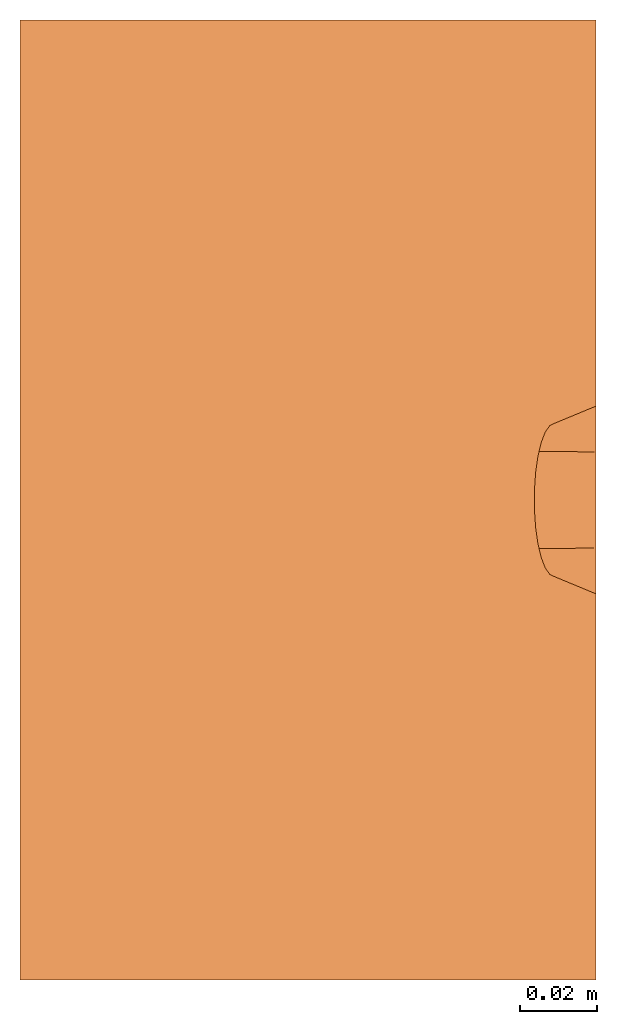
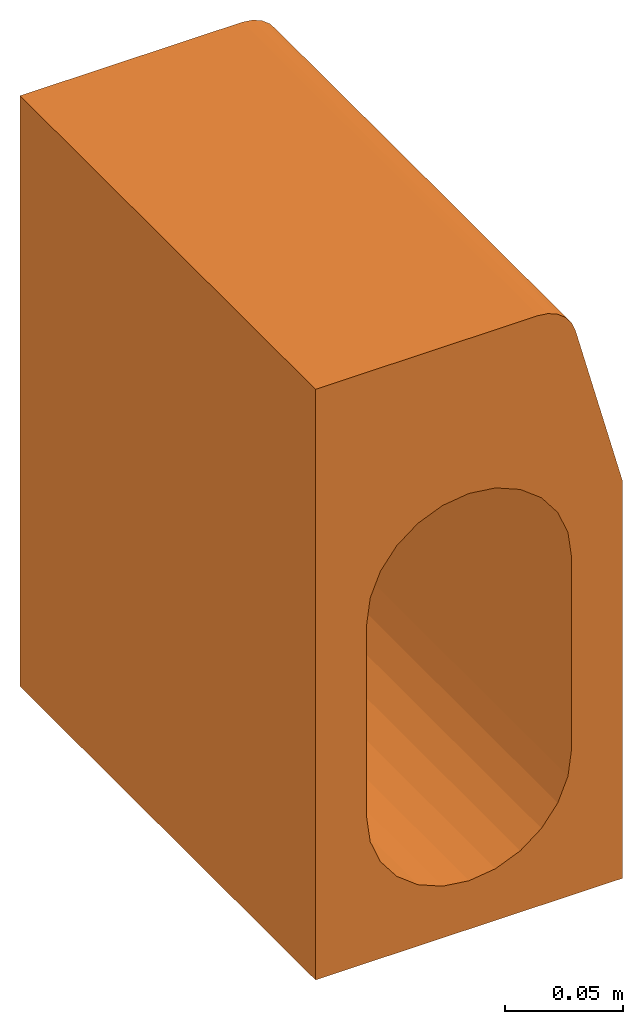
# One storey: 1 proxy.
"""IFC2X3 building model written with IfcOpenShell, lengths in millimetres."""

from ifc_helpers import new_model, entity, si_unit, converted_unit, direction, frame, origin, place, context, subcontext, project, spatial, faceted_brep, source, transform, mapped, material, element, save


model = new_model("IFC2X3")

# Units and contexts
model_context = context("Model", 3, precision=1e-06, world=origin(), true_north=direction((2.0, 6.12303176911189e-17, 1.0)))
context_of_model = context(None, 3, precision=1e-06, world=origin(), true_north=direction((2.0, 6.12303176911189e-17, 1.0)))
body_context = subcontext(model_context, "Body", "Model", "MODEL_VIEW")
ifc_project = project(units=[si_unit("LENGTHUNIT", "METRE", prefix="MILLI"), si_unit("AREAUNIT", "SQUARE_METRE", prefix="MILLI"), si_unit("VOLUMEUNIT", "CUBIC_METRE", prefix="MILLI"), converted_unit("PLANEANGLEUNIT", "DEGREE", entity("IfcRatioMeasure", 0.0174532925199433), si_unit("PLANEANGLEUNIT", "RADIAN"), dimensions=[0, 0, 0, 0, 0, 0, 0]), si_unit("TIMEUNIT", "SECOND")], contexts=[model_context, context_of_model])

# Site, building, storey
site_placement = place(None, origin())
site = spatial("IfcSite", under=ifc_project, at=site_placement, Name="Default", CompositionType="ELEMENT")
building_placement = place(site_placement, origin())
building = spatial("IfcBuilding", under=site, at=building_placement, CompositionType="ELEMENT")
storey_placement = place(building_placement, frame((0.0, 0.0, -300.0)))
storey = spatial("IfcBuildingStorey", under=building, at=storey_placement, Name="T.O. Fnd. Wall", CompositionType="ELEMENT", Elevation=-300.0)

# Proxy
ifc_material = material(Name="ACO Polymer Concrete.")
shared_shape = source(origin(), body_context, "Body", "Brep", [
    faceted_brep([(-75.0, 250.0, -180.0), (-35.3553390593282, 250.0, -140.35533905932), (-25.0, 250.0, -148.301270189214), (-43.3012701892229, 250.0, -130.0), (-12.9409522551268, 250.0, -153.296291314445), (0.0, 250.0, -155.0), (-50.0, 250.0, -5.0), (-50.0, 250.0, -105.0), (-75.0, 250.0, 125.0), (-48.2962913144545, 250.0, -117.940952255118), (-48.2962913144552, 250.0, 7.9409522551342), (12.9409522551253, 250.0, -153.296291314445), (75.0, 250.0, -180.0), (25.0, 250.0, -148.301270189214), (35.3553390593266, 250.0, -140.355339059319), (43.3012701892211, 250.0, -130.0), (50.0, 250.0, -105.0), (75.0, 250.0, 25.0), (48.2962913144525, 250.0, -117.940952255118), (50.0, 250.0, -5.0), (-35.3553390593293, 250.0, 30.3553390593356), (-43.3012701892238, 250.0, 20.0), (-25.0, 250.0, 38.3012701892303), (33.625867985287, 250.0, 125.0), (-12.940952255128, 250.0, 43.2962913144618), (12.9409522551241, 250.0, 43.296291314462), (0.0, 250.0, 45.0), (51.9784586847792, 250.0, 110.917561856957), (25.0, 250.0, 38.3012701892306), (43.3012701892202, 250.0, 20.0), (35.3553390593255, 250.0, 30.3553390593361), (48.2962913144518, 250.0, 7.94095225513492), (43.125867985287, 250.0, 122.454482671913), (47.0608968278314, 250.0, 119.435028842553), (50.0803506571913, 250.0, 115.500000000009), (38.5434298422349, 250.0, 124.352590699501), (-12.940952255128, 0.0, 43.2962913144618), (0.0, 0.0, 45.0), (33.625867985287, 0.0, 125.0), (-75.0, 0.0, 125.0), (12.9409522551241, 0.0, 43.296291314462), (51.9784586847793, 0.0, 110.917561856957), (-43.3012701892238, 0.0, 20.0), (-35.3553390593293, 0.0, 30.3553390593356), (-25.0, 0.0, 38.3012701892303), (-48.2962913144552, 0.0, 7.9409522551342), (25.0, 0.0, 38.3012701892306), (43.125867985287, 0.0, 122.454482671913), (38.5434298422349, 0.0, 124.352590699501), (47.0608968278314, 0.0, 119.435028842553), (50.0803506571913, 0.0, 115.500000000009), (35.3553390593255, 0.0, 30.3553390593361), (43.3012701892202, 0.0, 20.0), (75.0, 0.0, 25.0), (48.2962913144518, 0.0, 7.94095225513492), (50.0, 0.0, -5.0), (-50.0, 0.0, -105.0), (-50.0, 0.0, -5.0), (-75.0, 0.0, -180.0), (-48.2962913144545, 0.0, -117.940952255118), (-43.3012701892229, 0.0, -130.0), (-35.3553390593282, 0.0, -140.35533905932), (-25.0, 0.0, -148.301270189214), (-12.9409522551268, 0.0, -153.296291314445), (0.0, 0.0, -155.0), (75.0, 0.0, -180.0), (48.2962913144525, 0.0, -117.940952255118), (43.3012701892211, 0.0, -130.0), (50.0, 0.0, -105.0), (12.9409522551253, 0.0, -153.296291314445), (35.3553390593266, 0.0, -140.355339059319), (25.0, 0.0, -148.301270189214), (75.0, 107.326088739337, 2.32372360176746), (75.0, 112.503758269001, -1.64924196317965), (75.0, 118.533282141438, -4.14675252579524), (75.0, 125.003758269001, -4.99860686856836), (75.0, 100.003758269, 20.0013931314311), (75.0, 100.559159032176, 25.0), (75.0, 100.855612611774, 13.530917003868), (75.0, 103.35312317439, 7.50139313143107), (75.0, 131.474234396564, -4.1467525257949), (75.0, 142.681427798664, 2.32372360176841), (75.0, 137.503758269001, -1.649241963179), (75.0, 149.151903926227, 13.5309170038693), (75.0, 146.654393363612, 7.50139313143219), (75.0, 149.448357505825, 25.0), (75.0, 150.003758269, 20.0013931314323), (33.625867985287, 152.199882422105, 125.0), (10.3952698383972, 102.659986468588, 43.9074469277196), (20.3362443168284, 102.301107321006, 40.6775345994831), (0.0, 102.781381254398, 45.0), (50.0, 117.1875, -5.0), (50.0, 109.375, -5.0), (49.9983675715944, 120.53500866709, -4.59597008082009), (50.0, 125.0, -5.0), (49.8744572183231, 112.179931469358, -1.45902313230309), (50.0, 93.75, -5.0), (50.0, 62.5, -5.0), (49.9364123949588, 116.357470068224, -3.02749660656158), (10.3952698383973, 147.347530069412, 43.9074469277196), (0.0, 147.226135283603, 45.0), (20.3362443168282, 147.706409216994, 40.6775345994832), (29.3884817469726, 101.720427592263, 35.4514170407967), (37.1563801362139, 100.943324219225, 28.4574866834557), (43.3004658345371, 100.003758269, 20.0013931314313), (47.0227658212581, 101.320186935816, 11.9958669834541), (49.1106035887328, 105.47825301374, 4.3887493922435), (50.0, 156.25, -5.0), (50.0, 140.625, -5.0), (49.8747875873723, 137.819789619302, -1.46367943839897), (50.0, 187.5, -5.0), (49.492530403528, 108.829092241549, 1.46486312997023), (50.0, 132.8125, -5.0), (49.998386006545, 129.459896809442, -4.59825786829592), (37.1563801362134, 149.064192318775, 28.4574866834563), (29.3884817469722, 148.287088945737, 35.451417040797), (43.3004658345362, 150.003758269, 20.0013931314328), (47.0236538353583, 148.686498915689, 11.9934098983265), (49.9365867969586, 133.639843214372, -3.03096865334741), (49.4939729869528, 141.169176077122, 1.45584823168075), (49.1131583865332, 144.518562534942, 4.37537590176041), (48.0684061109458, 146.602530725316, 8.18439290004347), (49.9983767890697, 124.997452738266, -4.59711397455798), (64.2816590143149, 105.003758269, 65.0013931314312), (62.9991702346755, 105.584921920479, 69.7877064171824), (61.7912150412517, 107.294637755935, 74.2958565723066), (60.7279953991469, 110.033543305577, 78.2638462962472), (59.8713017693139, 113.642463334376, 81.4610704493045), (59.270922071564, 117.911660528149, 83.7017179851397), (58.9617481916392, 122.593024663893, 84.8555706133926), (51.9784586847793, 97.8001254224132, 110.917561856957), (58.9617481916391, 127.414491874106, 84.8555706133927), (61.7912150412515, 142.712878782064, 74.2958565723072), (62.9991702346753, 144.422594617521, 69.7877064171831), (64.2816590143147, 145.003758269, 65.0013931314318), (59.270922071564, 132.09585600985, 83.70171798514), (59.8713017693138, 136.365053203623, 81.4610704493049), (60.7279953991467, 139.973973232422, 78.2638462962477), (48.6995813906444, 115.347345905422, 117.566467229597), (50.6499186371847, 95.2808926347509, 114.436924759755), (45.1923351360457, 125.000000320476, 121.073713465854), (40.8968531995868, 134.65265187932, 123.553711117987), (37.3691629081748, 154.719106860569, 124.627607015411), (0.0, 144.322274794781, 70.177774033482), (0.0, 142.324266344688, 75.0013931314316), (0.0, 145.003758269, 65.0013931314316), (0.0, 139.14589389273, 79.1435287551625), (0.0, 105.685241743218, 70.1777740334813), (0.0, 135.003758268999, 82.3219012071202), (0.0, 130.18013917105, 84.3199096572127), (0.0, 125.003758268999, 85.0013931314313), (0.0, 105.003758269, 65.001393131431), (0.0, 110.861622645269, 79.143528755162), (0.0, 107.683250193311, 75.0013931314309), (0.0, 119.827377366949, 84.3199096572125), (0.0, 115.003758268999, 82.3219012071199)], [[[0, 1, 2]], [[1, 0, 3]], [[2, 4, 0]], [[0, 4, 5]], [[6, 7, 0, 8]], [[9, 3, 0]], [[10, 6, 8]], [[7, 9, 0]], [[5, 11, 12, 0]], [[12, 13, 14]], [[13, 12, 11]], [[14, 15, 12]], [[16, 17, 12, 18]], [[15, 18, 12]], [[17, 16, 19]], [[20, 21, 8]], [[20, 8, 22]], [[8, 23, 24, 22]], [[25, 26, 23]], [[23, 26, 24]], [[27, 28, 25, 23]], [[21, 10, 8]], [[17, 29, 30, 27]], [[31, 17, 19]], [[17, 31, 29]], [[23, 32, 33, 34]], [[34, 27, 23]], [[27, 30, 28]], [[23, 35, 32]], [[36, 37, 38, 39]], [[40, 41, 38, 37]], [[42, 43, 39]], [[44, 36, 39]], [[43, 44, 39]], [[39, 45, 42]], [[41, 40, 46]], [[47, 48, 38, 49]], [[50, 49, 38, 41]], [[51, 52, 53, 41]], [[53, 52, 54]], [[53, 54, 55]], [[46, 51, 41]], [[56, 57, 58]], [[56, 58, 59]], [[57, 45, 39, 58]], [[60, 58, 61]], [[58, 60, 59]], [[62, 61, 58]], [[63, 62, 58]], [[64, 63, 58, 65]], [[66, 67, 65]], [[65, 53, 68, 66]], [[69, 64, 65]], [[70, 71, 65]], [[65, 71, 69]], [[70, 65, 67]], [[68, 53, 55]], [[58, 39, 8, 0]], [[65, 58, 0, 12]], [[72, 53, 65, 73]], [[74, 73, 65]], [[75, 74, 65, 12]], [[53, 76, 77]], [[76, 53, 78]], [[79, 78, 53]], [[53, 72, 79]], [[80, 75, 12]], [[81, 82, 12, 17]], [[12, 82, 80]], [[83, 84, 17]], [[85, 86, 17]], [[17, 86, 83]], [[84, 81, 17]], [[39, 38, 87, 23]], [[23, 8, 39]], [[43, 42, 21, 20]], [[45, 57, 6, 10]], [[42, 45, 10, 21]], [[44, 43, 20, 22]], [[40, 37, 88]], [[46, 40, 89]], [[90, 37, 36, 24]], [[89, 40, 88]], [[91, 92, 93, 94]], [[36, 44, 22, 24]], [[90, 88, 37]], [[95, 92, 96, 97]], [[92, 95, 98, 93]], [[26, 99, 100]], [[100, 90, 24, 26]], [[26, 25, 99]], [[101, 99, 25]], [[28, 101, 25]], [[102, 46, 89]], [[103, 52, 51]], [[102, 103, 51]], [[104, 52, 103]], [[104, 105, 52]], [[46, 102, 51]], [[54, 105, 106]], [[52, 105, 54]], [[55, 54, 106]], [[107, 108, 109, 110]], [[55, 106, 111, 95]], [[97, 55, 95]], [[112, 94, 113, 108]], [[114, 115, 30]], [[116, 114, 29]], [[28, 30, 115]], [[29, 114, 30]], [[29, 117, 116]], [[115, 101, 28]], [[108, 113, 118, 109]], [[19, 109, 119, 120]], [[31, 120, 121, 117]], [[19, 120, 31]], [[29, 31, 117]], [[109, 19, 110]], [[94, 93, 122, 113]], [[16, 68, 55, 97]], [[70, 67, 15, 14]], [[69, 71, 13, 11]], [[71, 70, 14, 13]], [[64, 69, 11, 5]], [[16, 18, 66, 68]], [[66, 18, 15, 67]], [[62, 63, 4, 2]], [[61, 62, 2, 1]], [[59, 60, 3, 9]], [[60, 61, 1, 3]], [[56, 59, 9, 7]], [[5, 4, 63, 64]], [[6, 57, 56, 7]], [[53, 77, 123, 41]], [[41, 123, 124]], [[41, 124, 125]], [[41, 126, 127]], [[126, 41, 125]], [[41, 128, 129, 130]], [[127, 128, 41]], [[27, 130, 129, 131]], [[27, 132, 133]], [[134, 85, 17, 27]], [[133, 134, 27]], [[131, 135, 27]], [[136, 137, 27]], [[27, 137, 132]], [[136, 27, 135]], [[34, 138, 139]], [[130, 27, 139, 41]], [[41, 139, 50]], [[140, 49, 138]], [[32, 35, 141]], [[138, 49, 50]], [[27, 34, 139]], [[33, 32, 140]], [[140, 138, 33]], [[140, 32, 141]], [[23, 142, 35]], [[33, 138, 34]], [[142, 23, 87, 38]], [[142, 141, 35]], [[48, 141, 142]], [[47, 141, 48]], [[47, 140, 141]], [[139, 138, 50]], [[47, 49, 140]], [[142, 38, 48]], [[143, 144, 145]], [[146, 147, 145, 144]], [[148, 149, 150, 146]], [[90, 100, 145, 151]], [[147, 146, 152, 153]], [[145, 147, 151]], [[152, 150, 154, 155]], [[150, 152, 146]], [[147, 125, 124]], [[151, 124, 123]], [[155, 128, 127]], [[152, 127, 126]], [[153, 126, 125]], [[147, 153, 125]], [[124, 151, 147]], [[152, 155, 127]], [[126, 153, 152]], [[154, 128, 155]], [[154, 150, 129]], [[128, 154, 129]], [[148, 136, 135]], [[149, 135, 131]], [[145, 134, 133]], [[144, 132, 137]], [[132, 143, 133]], [[146, 137, 136]], [[150, 149, 131]], [[149, 148, 135]], [[148, 146, 136]], [[146, 144, 137]], [[132, 144, 143]], [[143, 145, 133]], [[129, 150, 131]], [[99, 145, 100]], [[145, 99, 101]], [[101, 115, 134, 145]], [[114, 85, 134, 115]], [[116, 86, 85, 114]], [[83, 86, 116]], [[81, 84, 120]], [[74, 93, 98]], [[109, 82, 119]], [[83, 117, 84]], [[95, 73, 98]], [[117, 83, 116]], [[84, 117, 121, 120]], [[82, 109, 118]], [[81, 119, 82]], [[122, 93, 75, 113]], [[82, 118, 80]], [[74, 75, 93]], [[81, 120, 119]], [[111, 72, 73]], [[78, 79, 105]], [[106, 79, 72]], [[76, 78, 104]], [[111, 106, 72]], [[74, 98, 73]], [[75, 80, 113]], [[73, 95, 111]], [[105, 79, 106]], [[105, 104, 78]], [[118, 113, 80]], [[151, 123, 89, 88]], [[88, 90, 151]], [[123, 102, 89]], [[77, 76, 104, 103]], [[123, 77, 103, 102]], [[16, 97, 96, 92]], [[16, 92, 91, 94]], [[16, 94, 112, 108]], [[16, 108, 107, 110]], [[16, 110, 19]]]),
])
proxy_placement = place(storey_placement, frame((-4264.21056397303, -6896.5502196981, 300.0)))
element("IfcBuildingElementProxy", 1, at=proxy_placement, inside=storey, material=ifc_material, Name="Civil-Drainage-Channel-ACO-KerbDrain-HB305 - PART 1:7960 - KDHB305 Channel - 250mm LG:7960 - KDHB305 Channel - 250mm LG", ObjectType="7960 - KDHB305 Channel - 250mm LG", CompositionType="ELEMENT", context=body_context, shape_type="MappedRepresentation", body=[
    mapped(shared_shape, transform((0.0, 0.0, 0.0), scale=1.0)),
])

save(model, "model.ifc")
